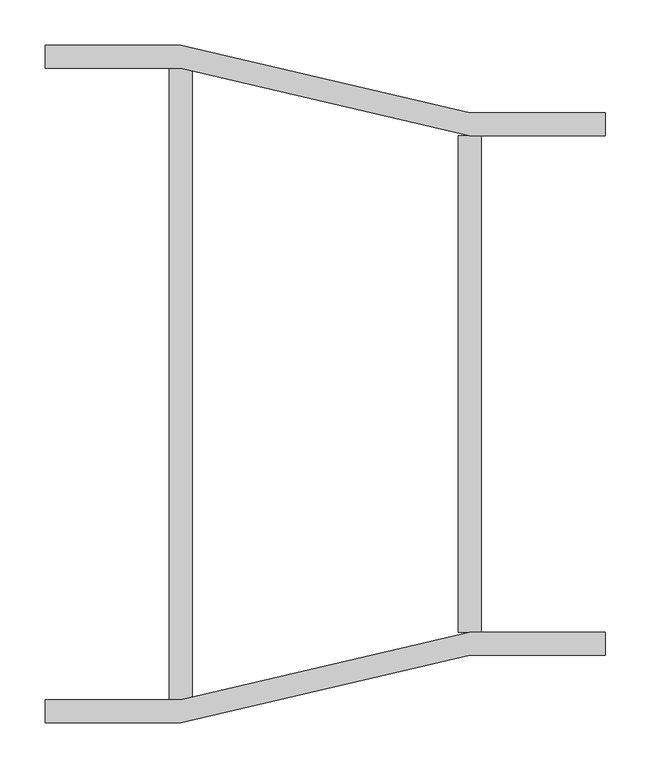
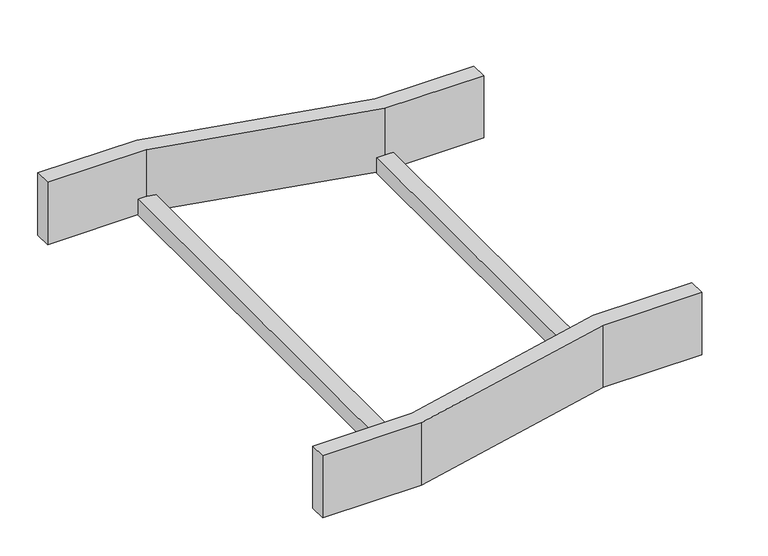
"""IFC4 building model written with IfcOpenShell, lengths in millimetres: cable carrier fitting geometry, BAKS_LD_RED_Straight reducer_RDSV : RDSVC_H100."""

from ifc_helpers import new_model, si_unit, frame, origin, place, context, project, spatial, polyline, outline, extrude, source, transform, mapped, element, save


def cable_carrier_fitting_6bd93874(model_context):
    return source(origin(), model_context, "Body", "SweptSolid", [
        extrude(outline(polyline([(0.0, -375.0), (0.0, -349.6), (150.0, -349.6), (470.0, -274.6), (620.0, -274.6), (620.0, -300.0), (470.0, -300.0), (150.0, -375.0), (0.0, -375.0)])), frame((0.0, 0.0, -50.0), z_axis=(0.0, 0.0, 1.0), x_axis=(1.0, 0.0, 0.0)), (0.0, 0.0, 1.0), 100.0),
        extrude(outline(polyline([(0.0, 349.6), (0.0, 375.0), (150.0, 375.0), (470.0, 300.0), (620.0, 300.0), (620.0, 274.6), (470.0, 274.6), (150.0, 349.6), (0.0, 349.6)])), frame((0.0, 0.0, -50.0), z_axis=(0.0, 0.0, 1.0), x_axis=(1.0, 0.0, 0.0)), (0.0, 0.0, 1.0), 100.0),
        extrude(outline(polyline([(457.3, 274.6), (482.7, 274.6), (482.7, -274.6), (457.3, -274.6), (457.3, 274.6)])), frame((0.0, 0.0, -50.0), z_axis=(0.0, 0.0, 1.0), x_axis=(1.0, 0.0, 0.0)), (0.0, 0.0, 1.0), 25.4),
        extrude(outline(polyline([(137.3, 349.6), (162.7, 349.6), (162.7, -349.6), (137.3, -349.6), (137.3, 349.6)])), frame((0.0, 0.0, -50.0), z_axis=(0.0, 0.0, 1.0), x_axis=(1.0, 0.0, 0.0)), (0.0, 0.0, 1.0), 25.4),
    ])


if __name__ == "__main__":
    model = new_model("IFC4")
    model_context = context("Model", 3, world=origin())
    ifc_project = project(units=[si_unit("LENGTHUNIT", "METRE", prefix="MILLI")], contexts=[model_context])
    site = spatial("IfcSite", under=ifc_project)
    building = spatial("IfcBuilding", under=site)
    placement = place(None, origin())
    cable_carrier_fitting_shape = cable_carrier_fitting_6bd93874(model_context)
    element("IfcCableCarrierFitting", 1, ObjectType="BAKS_LD_RED_Straight reducer_RDSV : RDSVC_H100", at=placement, inside=building, context=model_context, shape_type="MappedRepresentation", body=[
        mapped(cable_carrier_fitting_shape, transform((0.0, 0.0, 0.0), x_axis=(1.0, 0.0, 0.0), y_axis=(0.0, 1.0, 0.0), z_axis=(0.0, 0.0, 1.0))),
    ])
    save(model, "model.ifc")
